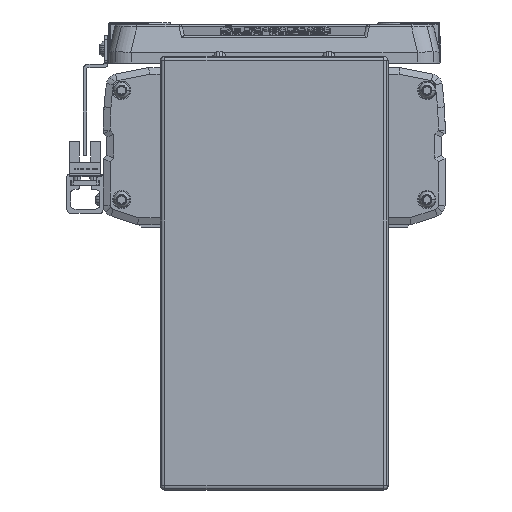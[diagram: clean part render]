
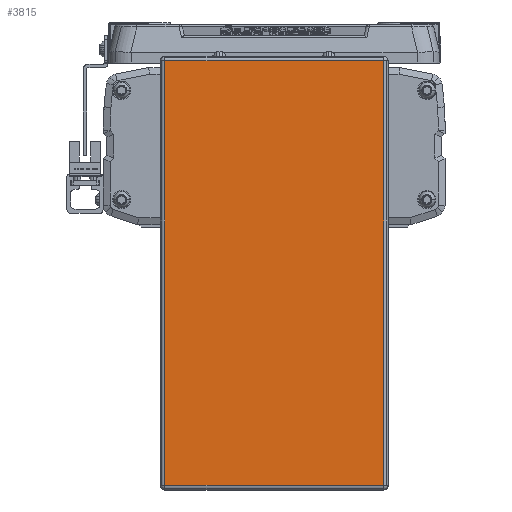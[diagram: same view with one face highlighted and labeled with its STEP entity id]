
A CAD part, left-side view. The second image highlights one B-rep face of the part: STEP entity #3815.
In plain terms, the highlighted planar face has unit normal (-1, 0, 0).
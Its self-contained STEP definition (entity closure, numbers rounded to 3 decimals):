
#3815=ADVANCED_FACE('',(#9666),#9667,.T.);
#9666=FACE_OUTER_BOUND('',#18230,.T.);
#9667=PLANE('',#18231);
#18230=EDGE_LOOP('',(#29687,#29688,#29689,#29690));
#18231=AXIS2_PLACEMENT_3D('',#29691,#29692,#29693);
#29687=ORIENTED_EDGE('',*,*,#52245,.F.);
#29688=ORIENTED_EDGE('',*,*,#52246,.F.);
#29689=ORIENTED_EDGE('',*,*,#52247,.F.);
#29690=ORIENTED_EDGE('',*,*,#52248,.F.);
#29691=CARTESIAN_POINT('',(-45.,0.,-64.2));
#29692=DIRECTION('',(-1.0,0.,0.));
#29693=DIRECTION('',(0.,1.0,0.));
#52245=EDGE_CURVE('',#61707,#62932,#62933,.T.);
#52246=EDGE_CURVE('',#62934,#61707,#62935,.T.);
#52247=EDGE_CURVE('',#62936,#62934,#62937,.T.);
#52248=EDGE_CURVE('',#62932,#62936,#62938,.T.);
#61707=VERTEX_POINT('',#76010);
#62932=VERTEX_POINT('',#77653);
#62933=LINE('',#77654,#77655);
#62934=VERTEX_POINT('',#77656);
#62935=LINE('',#77657,#77658);
#62936=VERTEX_POINT('',#77659);
#62937=LINE('',#77660,#77661);
#62938=LINE('',#77662,#77663);
#76010=CARTESIAN_POINT('',(-45.,48.,29.));
#77653=CARTESIAN_POINT('',(-45.,-48.,29.));
#77654=CARTESIAN_POINT('',(-45.,0.,29.));
#77655=VECTOR('',#94976,10.0);
#77656=CARTESIAN_POINT('',(-45.,48.,-157.4));
#77657=CARTESIAN_POINT('',(-45.,48.,-64.2));
#77658=VECTOR('',#94977,10.0);
#77659=CARTESIAN_POINT('',(-45.,-48.,-157.4));
#77660=CARTESIAN_POINT('',(-45.,0.,-157.4));
#77661=VECTOR('',#94978,10.0);
#77662=CARTESIAN_POINT('',(-45.,-48.,-64.2));
#77663=VECTOR('',#94979,10.0);
#94976=DIRECTION('',(0.0,-1.0,0.));
#94977=DIRECTION('',(0.,0.,1.0));
#94978=DIRECTION('',(0.0,1.0,0.));
#94979=DIRECTION('',(0.,0.,-1.0));
